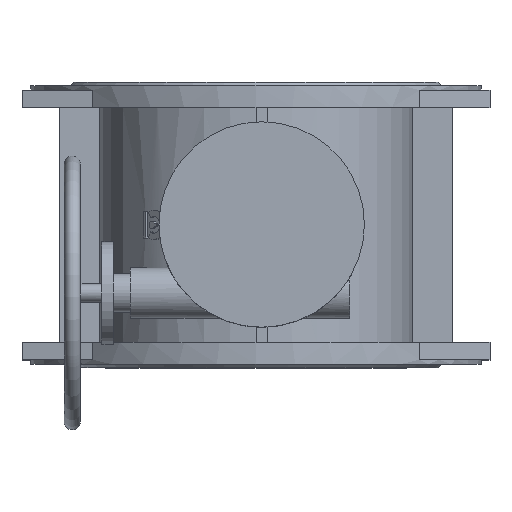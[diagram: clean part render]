
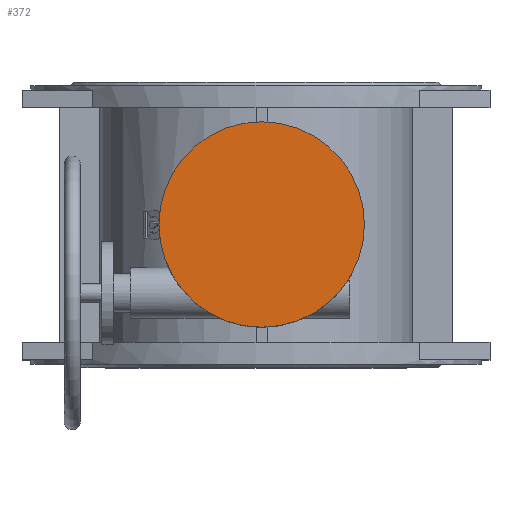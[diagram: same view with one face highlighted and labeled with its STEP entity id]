
A CAD part, top view. The second image highlights one B-rep face of the part: STEP entity #372.
In plain terms, the highlighted planar face has unit normal (0, 0, 1).
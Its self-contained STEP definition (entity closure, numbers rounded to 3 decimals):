
#372=ADVANCED_FACE('',(#1948),#1950,.T.);
#1948=FACE_BOUND('',#1949,.T.);
#1949=EDGE_LOOP('',(#3328));
#1950=PLANE('',#1951);
#1951=AXIS2_PLACEMENT_3D('',#1952,#1953,#1954);
#1952=CARTESIAN_POINT('',(5.,0.,305.));
#1953=DIRECTION('',(0.,0.,1.));
#1954=DIRECTION('',(0.,-1.,0.));
#3328=ORIENTED_EDGE('',*,*,#3883,.T.);
#3883=EDGE_CURVE('',#4297,#4297,#4298,.T.);
#4297=VERTEX_POINT('',#5194);
#4298=CIRCLE('',#5195,90.);
#5194=CARTESIAN_POINT('',(5.,-90.,305.));
#5195=AXIS2_PLACEMENT_3D('',#5196,#5197,#5198);
#5196=CARTESIAN_POINT('',(5.,0.,305.));
#5197=DIRECTION('',(0.,0.,1.));
#5198=DIRECTION('',(0.,-1.,0.));
